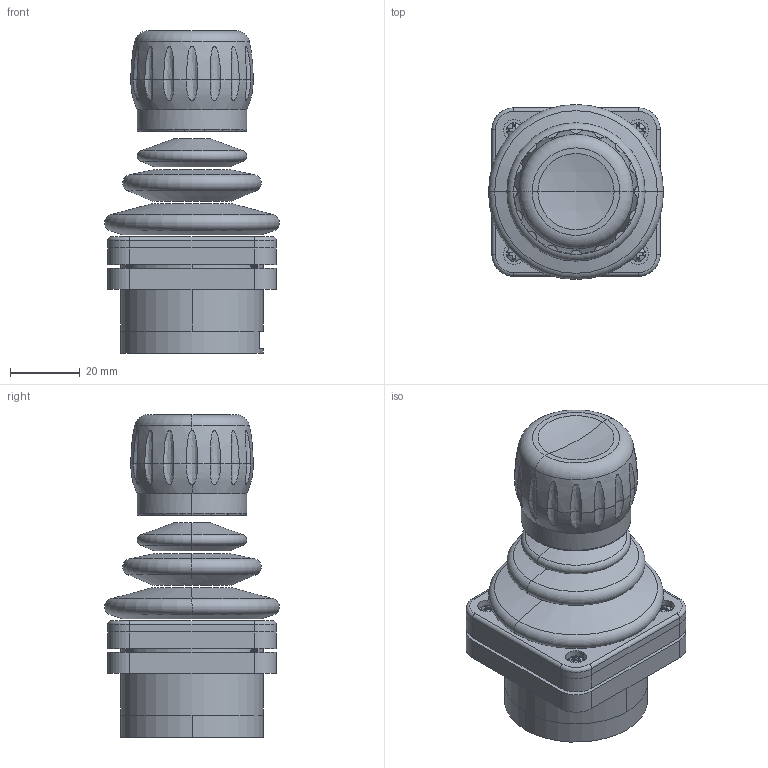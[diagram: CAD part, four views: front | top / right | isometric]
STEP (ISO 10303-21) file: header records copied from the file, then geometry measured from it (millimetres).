
FILE_DESCRIPTION(('FreeCAD Model'),'2;1');
FILE_NAME('Open CASCADE Shape Model','2023-01-09T13:00:32',('Author'),( ''),'Open CASCADE STEP processor 7.6','FreeCAD','Unknown');
FILE_SCHEMA(('AUTOMOTIVE_DESIGN { 1 0 10303 214 1 1 1 1 }'));
Length unit declared in the file: millimetre
Products named in the file (1): TRY100_Handle_6
Bounding box: 50.13 x 50.13 x 92.37 mm (x, y, z)
Surface area: 25166.8 mm2 (no closed solid volume)
Topology: 0 solids, 25 shells, 385 faces, 1149 edges, 771 vertices
Faces by surface type: plane 156, bspline 90, cone 66, cylinder 43, torus 20, sphere 10
Entity records: 57292 total; most frequent: CARTESIAN_POINT 37609, DIRECTION 3192, ORIENTED_EDGE 1996, PCURVE 1996, DEFINITIONAL_REPRESENTATION 1996, LINE 1633, VECTOR 1633, EDGE_CURVE 1149
